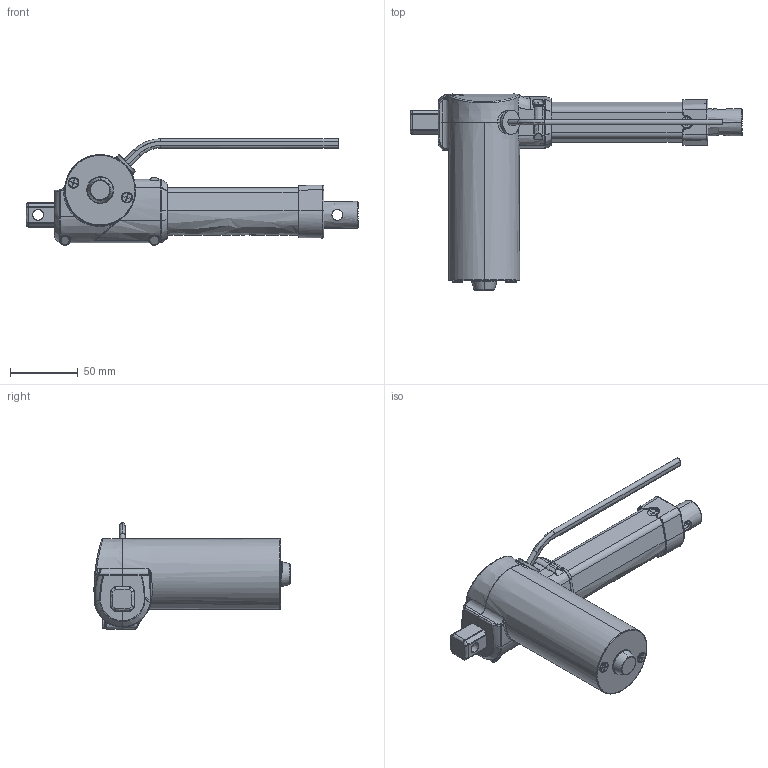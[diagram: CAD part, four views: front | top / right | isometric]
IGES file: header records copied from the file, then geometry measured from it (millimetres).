
Start section: SolidWorks IGES file using analytic representation for surfaces
Bounding box: 245.55 x 145 x 78.73 mm (x, y, z)
Surface area: 74542.3 mm2 (no closed solid volume)
Topology: 0 solids, 0 shells, 470 faces, 6007 edges, 6003 vertices
Faces by surface type: bspline 334, revolution 136
